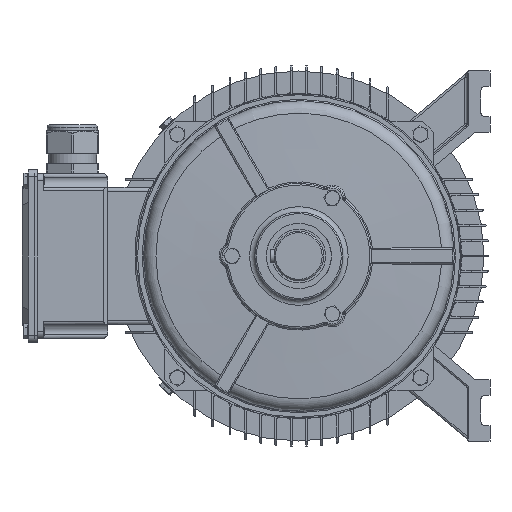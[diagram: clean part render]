
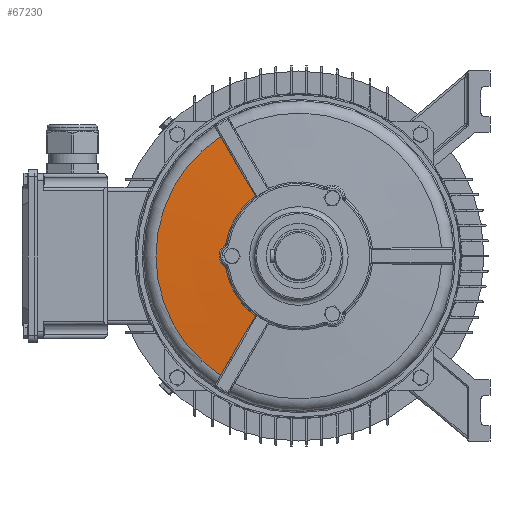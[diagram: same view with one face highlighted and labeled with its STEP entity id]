
A CAD part, left-side view. The second image highlights one B-rep face of the part: STEP entity #67230.
In plain terms, the highlighted conical face has half-angle 87 degrees and reference radius 149 mm.
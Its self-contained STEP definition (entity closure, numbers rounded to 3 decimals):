
#66115=CARTESIAN_POINT('',(179.,70.681,-101.423));
#66116=VERTEX_POINT('',#66115);
#66117=CARTESIAN_POINT('',(177.599,56.79,-78.508));
#66118=VERTEX_POINT('',#66117);
#66119=CARTESIAN_POINT('',(179.,70.681,-101.423));
#66120=CARTESIAN_POINT('',(178.833,69.078,-98.646));
#66121=CARTESIAN_POINT('',(178.669,67.492,-95.942));
#66122=CARTESIAN_POINT('',(178.311,63.987,-90.051));
#66123=CARTESIAN_POINT('',(178.087,61.768,-86.385));
#66124=CARTESIAN_POINT('',(177.775,58.598,-81.327));
#66125=CARTESIAN_POINT('',(177.686,57.694,-79.903));
#66126=CARTESIAN_POINT('',(177.599,56.79,-78.508));
#66127=B_SPLINE_CURVE_WITH_KNOTS('',3,(#66119,#66120,#66121,#66122,#66123,#66124,#66125,#66126),.UNSPECIFIED.,.F.,.U.,(4,2,2,4),(2.067,2.956,4.126,4.587),.UNSPECIFIED.);
#66128=EDGE_CURVE('',#66116,#66118,#66127,.T.);
#66347=CARTESIAN_POINT('',(177.599,56.79,78.508));
#66348=VERTEX_POINT('',#66347);
#66377=CARTESIAN_POINT('',(179.,70.681,101.423));
#66378=VERTEX_POINT('',#66377);
#66385=CARTESIAN_POINT('',(177.599,56.79,78.508));
#66386=CARTESIAN_POINT('',(177.686,57.694,79.903));
#66387=CARTESIAN_POINT('',(177.775,58.598,81.327));
#66388=CARTESIAN_POINT('',(178.087,61.768,86.385));
#66389=CARTESIAN_POINT('',(178.311,63.987,90.051));
#66390=CARTESIAN_POINT('',(178.669,67.492,95.942));
#66391=CARTESIAN_POINT('',(178.833,69.078,98.646));
#66392=CARTESIAN_POINT('',(179.,70.681,101.423));
#66393=B_SPLINE_CURVE_WITH_KNOTS('',3,(#66385,#66386,#66387,#66388,#66389,#66390,#66391,#66392),.UNSPECIFIED.,.F.,.U.,(4,2,2,4),(6.794,7.255,8.426,9.314),.UNSPECIFIED.);
#66394=EDGE_CURVE('',#66378,#66348,#66393,.F.);
#66620=CARTESIAN_POINT('',(182.316,102.391,156.346));
#66621=VERTEX_POINT('',#66620);
#66639=CARTESIAN_POINT('',(179.,70.681,101.423));
#66640=CARTESIAN_POINT('',(180.318,83.305,123.289));
#66641=CARTESIAN_POINT('',(182.316,102.391,156.346));
#66649=(BOUNDED_CURVE()B_SPLINE_CURVE(2,(#66639,#66640,#66641),.UNSPECIFIED.,.F.,.U.)B_SPLINE_CURVE_WITH_KNOTS((3,3),(39.931,40.506),.UNSPECIFIED.)CURVE()GEOMETRIC_REPRESENTATION_ITEM()RATIONAL_B_SPLINE_CURVE((1.592,1.34,1.082))REPRESENTATION_ITEM(''));
#66650=EDGE_CURVE('',#66378,#66621,#66649,.T.);
#66902=CARTESIAN_POINT('',(182.316,102.391,-156.346));
#66903=VERTEX_POINT('',#66902);
#66904=CARTESIAN_POINT('',(182.316,102.391,-156.346));
#66905=CARTESIAN_POINT('',(180.318,83.305,-123.289));
#66906=CARTESIAN_POINT('',(179.,70.681,-101.423));
#66914=(BOUNDED_CURVE()B_SPLINE_CURVE(2,(#66904,#66905,#66906),.UNSPECIFIED.,.F.,.U.)B_SPLINE_CURVE_WITH_KNOTS((3,3),(0.179,0.798),.UNSPECIFIED.)CURVE()GEOMETRIC_REPRESENTATION_ITEM()RATIONAL_B_SPLINE_CURVE((1.162,1.44,1.71))REPRESENTATION_ITEM(''));
#66915=EDGE_CURVE('',#66903,#66116,#66914,.T.);
#66955=CARTESIAN_POINT('',(177.599,95.546,16.116));
#66956=VERTEX_POINT('',#66955);
#66957=CARTESIAN_POINT('',(177.599,0.,0.0));
#66958=DIRECTION('',(-1.0,0.0,0.0));
#66959=DIRECTION('',(0.0,0.5,0.866));
#66960=AXIS2_PLACEMENT_3D('',#66957,#66958,#66959);
#66961=CIRCLE('',#66960,96.895);
#66962=EDGE_CURVE('',#66348,#66956,#66961,.T.);
#67045=CARTESIAN_POINT('',(177.599,95.546,-16.116));
#67046=VERTEX_POINT('',#67045);
#67047=CARTESIAN_POINT('',(177.599,0.,0.));
#67048=DIRECTION('',(-1.0,0.0,0.0));
#67049=DIRECTION('',(0.0,0.5,-0.866));
#67050=AXIS2_PLACEMENT_3D('',#67047,#67048,#67049);
#67051=CIRCLE('',#67050,96.895);
#67052=EDGE_CURVE('',#67046,#66118,#67051,.T.);
#67180=CARTESIAN_POINT('',(180.33,0.0,0.0));
#67181=DIRECTION('',(1.0,0.0,0.0));
#67182=DIRECTION('',(0.0,1.0,0.0));
#67183=AXIS2_PLACEMENT_3D('',#67180,#67181,#67182);
#67184=CONICAL_SURFACE('',#67183,149.0,87.);
#67185=ORIENTED_EDGE('',*,*,#66650,.T.);
#67186=CARTESIAN_POINT('',(182.316,0.0,0.0));
#67187=DIRECTION('',(1.0,0.0,0.0));
#67188=DIRECTION('',(0.0,-1.0,0.0));
#67189=AXIS2_PLACEMENT_3D('',#67186,#67187,#67188);
#67190=CIRCLE('',#67189,186.89);
#67191=EDGE_CURVE('',#66903,#66621,#67190,.T.);
#67192=ORIENTED_EDGE('',*,*,#67191,.F.);
#67193=ORIENTED_EDGE('',*,*,#66915,.T.);
#67194=ORIENTED_EDGE('',*,*,#66128,.T.);
#67195=ORIENTED_EDGE('',*,*,#67052,.F.);
#67196=CARTESIAN_POINT('',(177.65,96.837,-14.122));
#67197=VERTEX_POINT('',#67196);
#67198=CARTESIAN_POINT('',(177.65,96.837,-14.122));
#67199=CARTESIAN_POINT('',(177.618,96.163,-14.572));
#67200=CARTESIAN_POINT('',(177.599,95.681,-15.316));
#67201=CARTESIAN_POINT('',(177.599,95.546,-16.116));
#67202=B_SPLINE_CURVE_WITH_KNOTS('',3,(#67198,#67199,#67200,#67201),.UNSPECIFIED.,.F.,.U.,(4,4),(-0.244,0.0),.UNSPECIFIED.);
#67203=EDGE_CURVE('',#67197,#67046,#67202,.T.);
#67204=ORIENTED_EDGE('',*,*,#67203,.F.);
#67205=CARTESIAN_POINT('',(177.65,96.837,14.122));
#67206=VERTEX_POINT('',#67205);
#67207=CARTESIAN_POINT('',(177.65,96.837,14.122));
#67208=CARTESIAN_POINT('',(177.712,98.152,13.246));
#67209=CARTESIAN_POINT('',(177.822,100.567,11.091));
#67210=CARTESIAN_POINT('',(177.917,102.687,7.708));
#67211=CARTESIAN_POINT('',(177.99,104.339,3.204));
#67212=CARTESIAN_POINT('',(178.004,104.672,-1.639));
#67213=CARTESIAN_POINT('',(177.916,102.655,-8.611));
#67214=CARTESIAN_POINT('',(177.773,99.466,-12.369));
#67215=CARTESIAN_POINT('',(177.65,96.837,-14.122));
#67216=B_SPLINE_CURVE_WITH_KNOTS('',3,(#67207,#67208,#67209,#67210,#67211,#67212,#67213,#67214,#67215),.UNSPECIFIED.,.F.,.U.,(4,1,1,1,1,1,4),(-3.322,-2.847,-2.373,-2.135,-1.424,-0.949,0.0),.UNSPECIFIED.);
#67217=EDGE_CURVE('',#67206,#67197,#67216,.T.);
#67218=ORIENTED_EDGE('',*,*,#67217,.F.);
#67219=CARTESIAN_POINT('',(177.599,95.546,16.116));
#67220=CARTESIAN_POINT('',(177.599,95.681,15.316));
#67221=CARTESIAN_POINT('',(177.618,96.163,14.572));
#67222=CARTESIAN_POINT('',(177.65,96.837,14.122));
#67223=B_SPLINE_CURVE_WITH_KNOTS('',3,(#67219,#67220,#67221,#67222),.UNSPECIFIED.,.F.,.U.,(4,4),(-0.244,0.0),.UNSPECIFIED.);
#67224=EDGE_CURVE('',#66956,#67206,#67223,.T.);
#67225=ORIENTED_EDGE('',*,*,#67224,.F.);
#67226=ORIENTED_EDGE('',*,*,#66962,.F.);
#67227=ORIENTED_EDGE('',*,*,#66394,.F.);
#67228=EDGE_LOOP('',(#67185,#67192,#67193,#67194,#67195,#67204,#67218,#67225,#67226,#67227));
#67229=FACE_OUTER_BOUND('',#67228,.T.);
#67230=ADVANCED_FACE('',(#67229),#67184,.T.);
